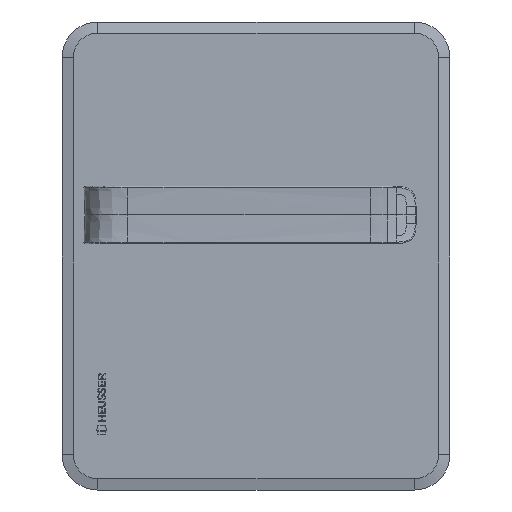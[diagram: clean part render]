
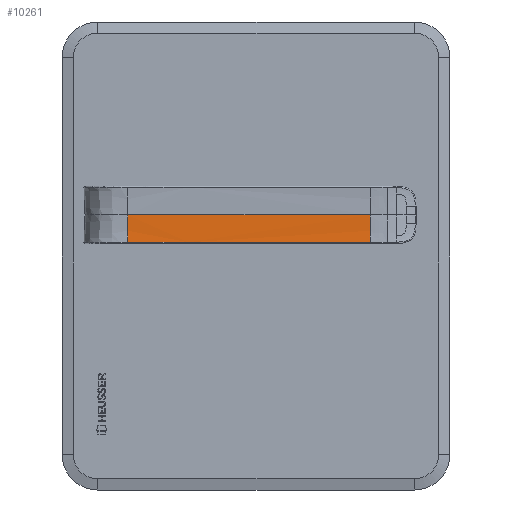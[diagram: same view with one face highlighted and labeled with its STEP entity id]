
A CAD part, top view. The second image highlights one B-rep face of the part: STEP entity #10261.
In plain terms, the highlighted free-form (B-spline) face has degree [1, 5] with [2, 6] control points.
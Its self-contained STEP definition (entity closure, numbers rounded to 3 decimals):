
#117=B_SPLINE_SURFACE_WITH_KNOTS('',1,5,((#15884,#15885,#15886,#15887,#15888,
#15889),(#15890,#15891,#15892,#15893,#15894,#15895)),.UNSPECIFIED.,.F.,
 .F.,.F.,(2,2),(6,6),(0.,1.),(0.,1.),.UNSPECIFIED.);
#369=B_SPLINE_CURVE_WITH_KNOTS('',5,(#15817,#15818,#15819,#15820,#15821,
#15822),.UNSPECIFIED.,.F.,.F.,(6,6),(0.,0.466),
 .UNSPECIFIED.);
#374=B_SPLINE_CURVE_WITH_KNOTS('',3,(#15898,#15899,#15900,#15901,#15902,
#15903,#15904,#15905,#15906,#15907),.UNSPECIFIED.,.F.,.F.,(4,3,3,4),(3.187,
8.761,12.402,12.747),.UNSPECIFIED.);
#375=B_SPLINE_CURVE_WITH_KNOTS('',5,(#15908,#15909,#15910,#15911,#15912,
#15913),.UNSPECIFIED.,.F.,.F.,(6,6),(0.,0.466),
 .UNSPECIFIED.);
#376=B_SPLINE_CURVE_WITH_KNOTS('',3,(#15914,#15915,#15916,#15917,#15918,
#15919,#15920,#15921,#15922,#15923,#15924,#15925,#15926,#15927,#15928,#15929,
#15930,#15931,#15932),.UNSPECIFIED.,.F.,.F.,(4,3,3,3,3,3,4),(0.,0.398,
0.557,0.796,0.913,1.195,3.187),
 .UNSPECIFIED.);
#1028=LINE('',#15883,#1882);
#1882=VECTOR('',#11901,10.);
#2749=FACE_OUTER_BOUND('',#3346,.T.);
#3346=EDGE_LOOP('',(#7314,#7315,#7316,#7317,#7318));
#4278=VERTEX_POINT('',#15604);
#4282=VERTEX_POINT('',#15749);
#4284=VERTEX_POINT('',#15843);
#4286=VERTEX_POINT('',#15896);
#4287=VERTEX_POINT('',#15897);
#5407=EDGE_CURVE('',#4282,#4278,#369,.T.);
#5412=EDGE_CURVE('',#4284,#4278,#1028,.T.);
#5413=EDGE_CURVE('',#4286,#4287,#374,.T.);
#5414=EDGE_CURVE('',#4287,#4284,#375,.T.);
#5415=EDGE_CURVE('',#4282,#4286,#376,.T.);
#7314=ORIENTED_EDGE('',*,*,#5413,.T.);
#7315=ORIENTED_EDGE('',*,*,#5414,.T.);
#7316=ORIENTED_EDGE('',*,*,#5412,.T.);
#7317=ORIENTED_EDGE('',*,*,#5407,.F.);
#7318=ORIENTED_EDGE('',*,*,#5415,.T.);
#10261=ADVANCED_FACE('',(#2749),#117,.F.);
#11901=DIRECTION('',(-1.,0.,-0.004));
#15604=CARTESIAN_POINT('',(-137.374,25.67,75.37));
#15749=CARTESIAN_POINT('',(-137.374,11.28,75.905));
#15817=CARTESIAN_POINT('Ctrl Pts',(-137.374,11.28,75.905));
#15818=CARTESIAN_POINT('Ctrl Pts',(-137.374,13.069,75.626));
#15819=CARTESIAN_POINT('Ctrl Pts',(-137.374,15.57,75.482));
#15820=CARTESIAN_POINT('Ctrl Pts',(-137.374,18.72,75.407));
#15821=CARTESIAN_POINT('Ctrl Pts',(-137.374,22.195,75.37));
#15822=CARTESIAN_POINT('Ctrl Pts',(-137.374,25.67,75.37));
#15843=CARTESIAN_POINT('',(-9.901,25.669,75.917));
#15883=CARTESIAN_POINT('',(-9.901,25.67,75.917));
#15884=CARTESIAN_POINT('Ctrl Pts',(-137.374,40.669,76.013));
#15885=CARTESIAN_POINT('Ctrl Pts',(-137.374,37.276,75.327));
#15886=CARTESIAN_POINT('Ctrl Pts',(-137.374,30.569,75.327));
#15887=CARTESIAN_POINT('Ctrl Pts',(-137.374,20.769,75.327));
#15888=CARTESIAN_POINT('Ctrl Pts',(-137.374,14.061,75.327));
#15889=CARTESIAN_POINT('Ctrl Pts',(-137.374,10.669,76.013));
#15890=CARTESIAN_POINT('Ctrl Pts',(-9.876,40.669,76.56));
#15891=CARTESIAN_POINT('Ctrl Pts',(-9.876,37.276,75.874));
#15892=CARTESIAN_POINT('Ctrl Pts',(-9.876,30.569,75.874));
#15893=CARTESIAN_POINT('Ctrl Pts',(-9.876,20.769,75.874));
#15894=CARTESIAN_POINT('Ctrl Pts',(-9.876,14.061,75.874));
#15895=CARTESIAN_POINT('Ctrl Pts',(-9.876,10.669,76.56));
#15896=CARTESIAN_POINT('',(-105.507,11.28,76.041));
#15897=CARTESIAN_POINT('',(-9.901,11.28,76.451));
#15898=CARTESIAN_POINT('Ctrl Pts',(-105.507,11.28,76.041));
#15899=CARTESIAN_POINT('Ctrl Pts',(-86.928,11.28,76.121));
#15900=CARTESIAN_POINT('Ctrl Pts',(-68.333,11.28,76.201));
#15901=CARTESIAN_POINT('Ctrl Pts',(-49.759,11.28,76.28));
#15902=CARTESIAN_POINT('Ctrl Pts',(-37.624,11.28,76.332));
#15903=CARTESIAN_POINT('Ctrl Pts',(-25.49,11.28,76.383));
#15904=CARTESIAN_POINT('Ctrl Pts',(-13.356,11.28,76.437));
#15905=CARTESIAN_POINT('Ctrl Pts',(-12.204,11.28,76.442));
#15906=CARTESIAN_POINT('Ctrl Pts',(-11.053,11.28,76.447));
#15907=CARTESIAN_POINT('Ctrl Pts',(-9.901,11.28,76.451));
#15908=CARTESIAN_POINT('Ctrl Pts',(-9.901,11.28,76.451));
#15909=CARTESIAN_POINT('Ctrl Pts',(-9.901,13.069,76.173));
#15910=CARTESIAN_POINT('Ctrl Pts',(-9.901,15.57,76.028));
#15911=CARTESIAN_POINT('Ctrl Pts',(-9.901,18.72,75.954));
#15912=CARTESIAN_POINT('Ctrl Pts',(-9.901,22.194,75.917));
#15913=CARTESIAN_POINT('Ctrl Pts',(-9.901,25.669,75.917));
#15914=CARTESIAN_POINT('Ctrl Pts',(-137.374,11.28,75.905));
#15915=CARTESIAN_POINT('Ctrl Pts',(-136.046,11.28,75.91));
#15916=CARTESIAN_POINT('Ctrl Pts',(-134.718,11.28,75.916));
#15917=CARTESIAN_POINT('Ctrl Pts',(-133.39,11.28,75.922));
#15918=CARTESIAN_POINT('Ctrl Pts',(-132.841,11.28,75.924));
#15919=CARTESIAN_POINT('Ctrl Pts',(-132.291,11.28,75.926));
#15920=CARTESIAN_POINT('Ctrl Pts',(-131.742,11.28,75.929));
#15921=CARTESIAN_POINT('Ctrl Pts',(-130.965,11.28,75.932));
#15922=CARTESIAN_POINT('Ctrl Pts',(-130.188,11.28,75.935));
#15923=CARTESIAN_POINT('Ctrl Pts',(-129.411,11.28,75.939));
#15924=CARTESIAN_POINT('Ctrl Pts',(-129.,11.28,75.941));
#15925=CARTESIAN_POINT('Ctrl Pts',(-128.588,11.28,75.942));
#15926=CARTESIAN_POINT('Ctrl Pts',(-128.177,11.28,75.944));
#15927=CARTESIAN_POINT('Ctrl Pts',(-127.26,11.28,75.948));
#15928=CARTESIAN_POINT('Ctrl Pts',(-126.343,11.28,75.952));
#15929=CARTESIAN_POINT('Ctrl Pts',(-125.426,11.28,75.956));
#15930=CARTESIAN_POINT('Ctrl Pts',(-118.786,11.28,75.984));
#15931=CARTESIAN_POINT('Ctrl Pts',(-112.146,11.28,76.013));
#15932=CARTESIAN_POINT('Ctrl Pts',(-105.507,11.28,76.041));
